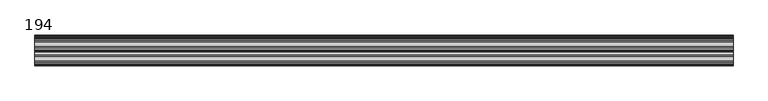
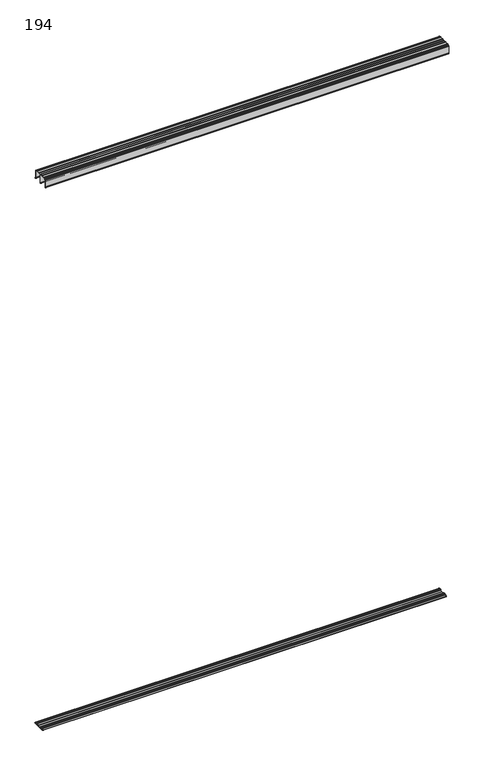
"""IFC4 building model written with IfcOpenShell, lengths in millimetres: proxy geometry, Doors-Other- SOGAL-SOG020022 : 194."""

from ifc_helpers import new_model, si_unit, point, frame, frame_2d, origin, place, context, project, spatial, polyline, circle_curve, trimmed, segment, composite_curve, outline, extrude, source, transform, mapped, element, save
from ifc_brep_helpers import plane_surface, cylinder_surface, revolved_surface, advanced_brep


def proxy_194_778c1687(model_context):
    return source(origin(), model_context, "Body", "SolidModel", [
        advanced_brep(
        [(970.0000092, 43.0231264, 2811.1679716), (970.0000092, 40.9915477, 2809.1363928), (970.0000092, 38.959969, 2811.1679716), (970.0000092, 30.9999973, 2811.1679716), (970.0000092, 26.8729963, 2811.1679716), (970.0000092, 14.8730021, 2811.1679716), (970.0000092, 10.7460011, 2811.1679716), (970.0000092, 6.3988083, 2811.1679716), (970.0000092, 4.9999855, 2809.6679178), (970.0000092, 4.9999855, 2808.1679003), (970.0000092, 4.0000102, 2807.167925), (970.0000092, 2.4999928, 2807.167925), (970.0000092, 1.0000116, 2805.6679439), (970.0000092, 1.0000116, 2771.6679117), (970.0000092, 0.205002, 2770.0499872), (970.0000092, 0.0, 2769.1679418), (970.0000092, 0.0, 2767.4179531), (970.0000092, 2.1113893, 2767.4179531), (970.0000092, 2.1113893, 2768.6679494), (970.0000092, 1.3113893, 2768.6679494), (970.0000092, 1.3113893, 2767.4179531), (970.0000092, 0.5000058, 2767.4179531), (970.0000092, 0.5000058, 2769.5165112), (970.0000092, 1.4999811, 2771.5519336), (970.0000092, 1.4999811, 2805.6679439), (970.0000092, 2.4999928, 2806.6679555), (970.0000092, 4.0000102, 2806.6679555), (970.0000092, 5.4999913, 2808.1679367), (970.0000092, 5.4999913, 2809.6679178), (970.0000092, 6.4448445, 2810.6764227), (970.0000092, 10.7507969, 2810.6764227), (970.0000092, 14.696305, 2810.7001949), (970.0000092, 27.0496934, 2810.7001949), (970.0000092, 30.9952015, 2810.6764227), (970.0000092, 38.959969, 2810.6764227), (970.0000092, 40.4999989, 2809.1363928), (970.0000092, 40.4999989, 2768.6173711), (970.0000092, 39.9876209, 2767.2285634), (970.0000092, 40.9915477, 2764.6739035), (970.0000092, 41.9954744, 2767.2285634), (970.0000092, 41.4830965, 2768.6173711), (970.0000092, 41.4830965, 2809.1363928), (970.0000092, 43.0231264, 2810.6764227), (970.0000092, 50.9878939, 2810.6764227), (970.0000092, 54.933402, 2810.7001949), (970.0000092, 67.2867904, 2810.7001949), (970.0000092, 71.2322985, 2810.6764227), (970.0000092, 75.5382509, 2810.6764227), (970.0000092, 76.4831041, 2809.6679178), (970.0000092, 76.4831041, 2808.1679367), (970.0000092, 77.9830852, 2806.6679555), (970.0000092, 79.4831026, 2806.6679555), (970.0000092, 80.4831143, 2805.6679439), (970.0000092, 80.4831143, 2771.5519336), (970.0000092, 81.4830896, 2769.5165112), (970.0000092, 81.4830896, 2767.4179531), (970.0000092, 80.6717061, 2767.4179531), (970.0000092, 80.6717061, 2768.6679494), (970.0000092, 79.8717061, 2768.6679494), (970.0000092, 79.8717061, 2767.4179531), (970.0000092, 81.9830954, 2767.4179531), (970.0000092, 81.9830954, 2769.1679418), (970.0000092, 81.7780934, 2770.0499872), (970.0000092, 80.9830837, 2771.6679117), (970.0000092, 80.9830837, 2805.6679439), (970.0000092, 79.4831026, 2807.167925), (970.0000092, 77.9830852, 2807.167925), (970.0000092, 76.9831099, 2808.1679003), (970.0000092, 76.9831099, 2809.6679178), (970.0000092, 75.5842871, 2811.1679716), (970.0000092, 71.2370943, 2811.1679716), (970.0000092, 67.1100933, 2811.1679716), (970.0000092, 55.110099, 2811.1679716), (970.0000092, 50.983098, 2811.1679716), (970.0000092, 41.6980443, 2766.8676318), (970.0000092, 40.2681734, 2766.8676318), (970.0000092, 40.9915477, 2768.6162721), (-969.9999908, 43.0231264, 2811.1679716), (-969.9999908, 50.983098, 2811.1679716), (-969.9999908, 55.110099, 2811.1679716), (-969.9999908, 67.1100933, 2811.1679716), (-969.9999908, 71.2370943, 2811.1679716), (-969.9999908, 75.5842871, 2811.1679716), (-969.9999908, 76.9831099, 2809.6679178), (-969.9999908, 76.9831099, 2808.1679003), (-969.9999908, 77.9830852, 2807.167925), (-969.9999908, 79.4831026, 2807.167925), (-969.9999908, 80.9830837, 2805.6679439), (-969.9999908, 80.9830837, 2771.6679117), (-969.9999908, 81.7780934, 2770.0499872), (-969.9999908, 81.9830954, 2769.1679418), (-969.9999908, 81.9830954, 2767.4179531), (-969.9999908, 79.8717061, 2767.4179531), (-969.9999908, 79.8717061, 2768.6679494), (-969.9999908, 80.6717061, 2768.6679494), (-969.9999908, 80.6717061, 2767.4179531), (-969.9999908, 81.4830896, 2767.4179531), (-969.9999908, 81.4830896, 2769.5165112), (-969.9999908, 80.4831143, 2771.5519336), (-969.9999908, 80.4831143, 2805.6679439), (-969.9999908, 79.4831026, 2806.6679555), (-969.9999908, 77.9830852, 2806.6679555), (-969.9999908, 76.4831041, 2808.1679367), (-969.9999908, 76.4831041, 2809.6679178), (-969.9999908, 75.5382509, 2810.6764227), (-969.9999908, 71.2322985, 2810.6764227), (-969.9999908, 67.2867904, 2810.7001949), (-969.9999908, 54.933402, 2810.7001949), (-969.9999908, 50.9878939, 2810.6764227), (-969.9999908, 43.0231264, 2810.6764227), (-969.9999908, 41.4830965, 2809.1363928), (-969.9999908, 41.4830965, 2768.6173711), (-969.9999908, 41.9954744, 2767.2285634), (-969.9999908, 40.9915477, 2764.6739035), (-969.9999908, 39.9876209, 2767.2285634), (-969.9999908, 40.4999989, 2768.6173711), (-969.9999908, 40.4999989, 2809.1363928), (-969.9999908, 38.959969, 2810.6764227), (-969.9999908, 30.9952015, 2810.6764227), (-969.9999908, 27.0496934, 2810.7001949), (-969.9999908, 14.696305, 2810.7001949), (-969.9999908, 10.7507969, 2810.6764227), (-969.9999908, 6.4448445, 2810.6764227), (-969.9999908, 5.4999913, 2809.6679178), (-969.9999908, 5.4999913, 2808.1679367), (-969.9999908, 4.0000102, 2806.6679555), (-969.9999908, 2.4999928, 2806.6679555), (-969.9999908, 1.4999811, 2805.6679439), (-969.9999908, 1.4999811, 2771.5519336), (-969.9999908, 0.5000058, 2769.5165112), (-969.9999908, 0.5000058, 2767.4179531), (-969.9999908, 1.3113893, 2767.4179531), (-969.9999908, 1.3113893, 2768.6679494), (-969.9999908, 2.1113893, 2768.6679494), (-969.9999908, 2.1113893, 2767.4179531), (-969.9999908, 0.0, 2767.4179531), (-969.9999908, 0.0, 2769.1679418), (-969.9999908, 0.205002, 2770.0499872), (-969.9999908, 1.0000116, 2771.6679117), (-969.9999908, 1.0000116, 2805.6679439), (-969.9999908, 2.4999928, 2807.167925), (-969.9999908, 4.0000102, 2807.167925), (-969.9999908, 4.9999855, 2808.1679003), (-969.9999908, 4.9999855, 2809.6679178), (-969.9999908, 6.3988083, 2811.1679716), (-969.9999908, 10.7460011, 2811.1679716), (-969.9999908, 14.8730021, 2811.1679716), (-969.9999908, 26.8729963, 2811.1679716), (-969.9999908, 30.9999973, 2811.1679716), (-969.9999908, 38.959969, 2811.1679716), (-969.9999908, 40.9915477, 2809.1363928), (-969.9999908, 41.6980443, 2766.8676318), (-969.9999908, 40.9915477, 2768.6162721), (-969.9999908, 40.2681734, 2766.8676318)],
        [
            (0, 1, circle_curve(frame((970.0000092, 43.0231264, 2809.1363928), z_axis=(1.0, 0.0, 0.0), x_axis=(0.0, 1.0, 0.0)), 2.0315787)),
            (1, 2, circle_curve(frame((970.0000092, 38.959969, 2809.1363928), z_axis=(1.0, 0.0, 0.0), x_axis=(0.0, 1.0, 0.0)), 2.0315787)),
            (2, 3),
            (3, 4, circle_curve(frame((970.0000092, 28.9364968, 2807.741466), z_axis=(1.0, 0.0, 0.0), x_axis=(0.0, 1.0, 0.0)), 3.9998718)),
            (4, 5),
            (5, 6, circle_curve(frame((970.0000092, 12.8095016, 2807.741466), z_axis=(1.0, 0.0, 0.0), x_axis=(0.0, 1.0, 0.0)), 3.9998718)),
            (6, 7),
            (7, 8, circle_curve(frame((970.0000092, 6.5037023, 2809.6679178), z_axis=(1.0, 0.0, 0.0), x_axis=(0.0, 1.0, 0.0)), 1.5037168)),
            (8, 9),
            (9, 10, circle_curve(frame((970.0000092, 4.0000102, 2808.1679003), z_axis=(-1.0, 0.0, 0.0), x_axis=(0.0, 1.0, 0.0)), 0.9999753)),
            (10, 11),
            (11, 12, circle_curve(frame((970.0000092, 2.4999928, 2805.6679439), z_axis=(1.0, 0.0, 0.0), x_axis=(0.0, 1.0, 0.0)), 1.4999811)),
            (12, 13),
            (13, 14),
            (14, 15, circle_curve(frame((970.0000092, 2.000053, 2769.1679418), z_axis=(1.0, 0.0, 0.0), x_axis=(0.0, 1.0, 0.0)), 2.000053)),
            (15, 16),
            (16, 17, circle_curve(frame((970.0000092, 1.0556947, 2767.8588098), z_axis=(1.0, 0.0, 0.0), x_axis=(0.0, 1.0, 0.0)), 1.144048)),
            (17, 18),
            (18, 19),
            (19, 20),
            (20, 21),
            (21, 22),
            (22, 23),
            (23, 24),
            (24, 25, circle_curve(frame((970.0000092, 2.4999928, 2805.6679439), z_axis=(-1.0, 0.0, 0.0), x_axis=(0.0, 1.0, 0.0)), 1.0000116)),
            (25, 26),
            (26, 27, circle_curve(frame((970.0000092, 4.0000102, 2808.1679367), z_axis=(1.0, 0.0, 0.0), x_axis=(0.0, 1.0, 0.0)), 1.4999811)),
            (27, 28),
            (28, 29, circle_curve(frame((970.0000092, 6.5106403, 2809.6679178), z_axis=(-1.0, 0.0, 0.0), x_axis=(0.0, 1.0, 0.0)), 1.010649)),
            (29, 30),
            (30, 31, circle_curve(frame((970.0000092, 12.7427575, 2807.5005547), z_axis=(-1.0, 0.0, 0.0), x_axis=(0.0, 1.0, 0.0)), 3.7488725)),
            (31, 32),
            (32, 33, circle_curve(frame((970.0000092, 29.0032408, 2807.5005547), z_axis=(-1.0, 0.0, 0.0), x_axis=(0.0, 1.0, 0.0)), 3.7488725)),
            (33, 34),
            (34, 35, circle_curve(frame((970.0000092, 38.959969, 2809.1363928), z_axis=(-1.0, 0.0, 0.0), x_axis=(0.0, 1.0, 0.0)), 1.5400299)),
            (35, 36),
            (36, 37, circle_curve(frame((970.0000092, 38.9121255, 2768.4142705), z_axis=(-1.0, 0.0, 0.0), x_axis=(0.0, 1.0, 0.0)), 1.6008097)),
            (37, 38, circle_curve(frame((970.0000092, 40.97367, 2766.1414688), z_axis=(1.0, 0.0, 0.0), x_axis=(0.0, 1.0, 0.0)), 1.4676742)),
            (38, 39, circle_curve(frame((970.0000092, 41.0094254, 2766.1414688), z_axis=(1.0, 0.0, 0.0), x_axis=(0.0, 1.0, 0.0)), 1.4676742)),
            (39, 40, circle_curve(frame((970.0000092, 43.0709699, 2768.4142705), z_axis=(-1.0, 0.0, 0.0), x_axis=(0.0, 1.0, 0.0)), 1.6008097)),
            (40, 41),
            (41, 42, circle_curve(frame((970.0000092, 43.0231264, 2809.1363928), z_axis=(-1.0, 0.0, 0.0), x_axis=(0.0, 1.0, 0.0)), 1.5400299)),
            (42, 43),
            (43, 44, circle_curve(frame((970.0000092, 52.9798545, 2807.5005547), z_axis=(-1.0, 0.0, 0.0), x_axis=(0.0, 1.0, 0.0)), 3.7488725)),
            (44, 45),
            (45, 46, circle_curve(frame((970.0000092, 69.2403378, 2807.5005547), z_axis=(-1.0, 0.0, 0.0), x_axis=(0.0, 1.0, 0.0)), 3.7488725)),
            (46, 47),
            (47, 48, circle_curve(frame((970.0000092, 75.4724551, 2809.6679178), z_axis=(-1.0, 0.0, 0.0), x_axis=(0.0, 1.0, 0.0)), 1.010649)),
            (48, 49),
            (49, 50, circle_curve(frame((970.0000092, 77.9830852, 2808.1679367), z_axis=(1.0, 0.0, 0.0), x_axis=(0.0, 1.0, 0.0)), 1.4999811)),
            (50, 51),
            (51, 52, circle_curve(frame((970.0000092, 79.4831026, 2805.6679439), z_axis=(-1.0, 0.0, 0.0), x_axis=(0.0, 1.0, 0.0)), 1.0000116)),
            (52, 53),
            (53, 54),
            (54, 55),
            (55, 56),
            (56, 57),
            (57, 58),
            (58, 59),
            (59, 60, circle_curve(frame((970.0000092, 80.9274007, 2767.8588098), z_axis=(1.0, 0.0, 0.0), x_axis=(0.0, 1.0, 0.0)), 1.144048)),
            (60, 61),
            (61, 62, circle_curve(frame((970.0000092, 79.9830424, 2769.1679418), z_axis=(1.0, 0.0, 0.0), x_axis=(0.0, 1.0, 0.0)), 2.000053)),
            (62, 63),
            (63, 64),
            (64, 65, circle_curve(frame((970.0000092, 79.4831026, 2805.6679439), z_axis=(1.0, 0.0, 0.0), x_axis=(0.0, 1.0, 0.0)), 1.4999811)),
            (65, 66),
            (66, 67, circle_curve(frame((970.0000092, 77.9830852, 2808.1679003), z_axis=(-1.0, 0.0, 0.0), x_axis=(0.0, 1.0, 0.0)), 0.9999753)),
            (67, 68),
            (68, 69, circle_curve(frame((970.0000092, 75.4793931, 2809.6679178), z_axis=(1.0, 0.0, 0.0), x_axis=(0.0, 1.0, 0.0)), 1.5037168)),
            (69, 70),
            (70, 71, circle_curve(frame((970.0000092, 69.1735938, 2807.741466), z_axis=(1.0, 0.0, 0.0), x_axis=(0.0, 1.0, 0.0)), 3.9998718)),
            (71, 72),
            (72, 73, circle_curve(frame((970.0000092, 53.0465985, 2807.741466), z_axis=(1.0, 0.0, 0.0), x_axis=(0.0, 1.0, 0.0)), 3.9998718)),
            (73, 0),
            (74, 75, circle_curve(frame((970.0000092, 40.9831089, 2766.1799102), z_axis=(-1.0, 0.0, 0.0), x_axis=(0.0, 1.0, 0.0)), 0.9920149)),
            (75, 76, circle_curve(frame((970.0000092, 38.4005422, 2768.6641721), z_axis=(1.0, 0.0, 0.0), x_axis=(0.0, 1.0, 0.0)), 2.5914482)),
            (76, 74, circle_curve(frame((970.0000092, 43.3376029, 2768.5470982), z_axis=(1.0, 0.0, 0.0), x_axis=(0.0, 1.0, 0.0)), 2.3470748)),
            (77, 78),
            (78, 79, circle_curve(frame((-969.9999908, 53.0465985, 2807.741466), z_axis=(-1.0, 0.0, 0.0), x_axis=(0.0, 1.0, 0.0)), 3.9998718)),
            (79, 80),
            (80, 81, circle_curve(frame((-969.9999908, 69.1735938, 2807.741466), z_axis=(-1.0, 0.0, 0.0), x_axis=(0.0, 1.0, 0.0)), 3.9998718)),
            (81, 82),
            (82, 83, circle_curve(frame((-969.9999908, 75.4793931, 2809.6679178), z_axis=(-1.0, 0.0, 0.0), x_axis=(0.0, 1.0, 0.0)), 1.5037168)),
            (83, 84),
            (84, 85, circle_curve(frame((-969.9999908, 77.9830852, 2808.1679003), z_axis=(1.0, 0.0, 0.0), x_axis=(0.0, 1.0, 0.0)), 0.9999753)),
            (85, 86),
            (86, 87, circle_curve(frame((-969.9999908, 79.4831026, 2805.6679439), z_axis=(-1.0, 0.0, 0.0), x_axis=(0.0, 1.0, 0.0)), 1.4999811)),
            (87, 88),
            (88, 89),
            (89, 90, circle_curve(frame((-969.9999908, 79.9830424, 2769.1679418), z_axis=(-1.0, 0.0, 0.0), x_axis=(0.0, 1.0, 0.0)), 2.000053)),
            (90, 91),
            (91, 92, circle_curve(frame((-969.9999908, 80.9274007, 2767.8588098), z_axis=(-1.0, 0.0, 0.0), x_axis=(0.0, 1.0, 0.0)), 1.144048)),
            (92, 93),
            (93, 94),
            (94, 95),
            (95, 96),
            (96, 97),
            (97, 98),
            (98, 99),
            (99, 100, circle_curve(frame((-969.9999908, 79.4831026, 2805.6679439), z_axis=(1.0, 0.0, 0.0), x_axis=(0.0, 1.0, 0.0)), 1.0000116)),
            (100, 101),
            (101, 102, circle_curve(frame((-969.9999908, 77.9830852, 2808.1679367), z_axis=(-1.0, 0.0, 0.0), x_axis=(0.0, 1.0, 0.0)), 1.4999811)),
            (102, 103),
            (103, 104, circle_curve(frame((-969.9999908, 75.4724551, 2809.6679178), z_axis=(1.0, 0.0, 0.0), x_axis=(0.0, 1.0, 0.0)), 1.010649)),
            (104, 105),
            (105, 106, circle_curve(frame((-969.9999908, 69.2403378, 2807.5005547), z_axis=(1.0, 0.0, 0.0), x_axis=(0.0, 1.0, 0.0)), 3.7488725)),
            (106, 107),
            (107, 108, circle_curve(frame((-969.9999908, 52.9798545, 2807.5005547), z_axis=(1.0, 0.0, 0.0), x_axis=(0.0, 1.0, 0.0)), 3.7488725)),
            (108, 109),
            (109, 110, circle_curve(frame((-969.9999908, 43.0231264, 2809.1363928), z_axis=(1.0, 0.0, 0.0), x_axis=(0.0, 1.0, 0.0)), 1.5400299)),
            (110, 111),
            (111, 112, circle_curve(frame((-969.9999908, 43.0709699, 2768.4142705), z_axis=(1.0, 0.0, 0.0), x_axis=(0.0, 1.0, 0.0)), 1.6008097)),
            (112, 113, circle_curve(frame((-969.9999908, 41.0094254, 2766.1414688), z_axis=(-1.0, 0.0, 0.0), x_axis=(0.0, 1.0, 0.0)), 1.4676742)),
            (113, 114, circle_curve(frame((-969.9999908, 40.97367, 2766.1414688), z_axis=(-1.0, 0.0, 0.0), x_axis=(0.0, 1.0, 0.0)), 1.4676742)),
            (114, 115, circle_curve(frame((-969.9999908, 38.9121255, 2768.4142705), z_axis=(1.0, 0.0, 0.0), x_axis=(0.0, 1.0, 0.0)), 1.6008097)),
            (115, 116),
            (116, 117, circle_curve(frame((-969.9999908, 38.959969, 2809.1363928), z_axis=(1.0, 0.0, 0.0), x_axis=(0.0, 1.0, 0.0)), 1.5400299)),
            (117, 118),
            (118, 119, circle_curve(frame((-969.9999908, 29.0032408, 2807.5005547), z_axis=(1.0, 0.0, 0.0), x_axis=(0.0, 1.0, 0.0)), 3.7488725)),
            (119, 120),
            (120, 121, circle_curve(frame((-969.9999908, 12.7427575, 2807.5005547), z_axis=(1.0, 0.0, 0.0), x_axis=(0.0, 1.0, 0.0)), 3.7488725)),
            (121, 122),
            (122, 123, circle_curve(frame((-969.9999908, 6.5106403, 2809.6679178), z_axis=(1.0, 0.0, 0.0), x_axis=(0.0, 1.0, 0.0)), 1.010649)),
            (123, 124),
            (124, 125, circle_curve(frame((-969.9999908, 4.0000102, 2808.1679367), z_axis=(-1.0, 0.0, 0.0), x_axis=(0.0, 1.0, 0.0)), 1.4999811)),
            (125, 126),
            (126, 127, circle_curve(frame((-969.9999908, 2.4999928, 2805.6679439), z_axis=(1.0, 0.0, 0.0), x_axis=(0.0, 1.0, 0.0)), 1.0000116)),
            (127, 128),
            (128, 129),
            (129, 130),
            (130, 131),
            (131, 132),
            (132, 133),
            (133, 134),
            (134, 135, circle_curve(frame((-969.9999908, 1.0556947, 2767.8588098), z_axis=(-1.0, 0.0, 0.0), x_axis=(0.0, 1.0, 0.0)), 1.144048)),
            (135, 136),
            (136, 137, circle_curve(frame((-969.9999908, 2.000053, 2769.1679418), z_axis=(-1.0, 0.0, 0.0), x_axis=(0.0, 1.0, 0.0)), 2.000053)),
            (137, 138),
            (138, 139),
            (139, 140, circle_curve(frame((-969.9999908, 2.4999928, 2805.6679439), z_axis=(-1.0, 0.0, 0.0), x_axis=(0.0, 1.0, 0.0)), 1.4999811)),
            (140, 141),
            (141, 142, circle_curve(frame((-969.9999908, 4.0000102, 2808.1679003), z_axis=(1.0, 0.0, 0.0), x_axis=(0.0, 1.0, 0.0)), 0.9999753)),
            (142, 143),
            (143, 144, circle_curve(frame((-969.9999908, 6.5037023, 2809.6679178), z_axis=(-1.0, 0.0, 0.0), x_axis=(0.0, 1.0, 0.0)), 1.5037168)),
            (144, 145),
            (145, 146, circle_curve(frame((-969.9999908, 12.8095016, 2807.741466), z_axis=(-1.0, 0.0, 0.0), x_axis=(0.0, 1.0, 0.0)), 3.9998718)),
            (146, 147),
            (147, 148, circle_curve(frame((-969.9999908, 28.9364968, 2807.741466), z_axis=(-1.0, 0.0, 0.0), x_axis=(0.0, 1.0, 0.0)), 3.9998718)),
            (148, 149),
            (149, 150, circle_curve(frame((-969.9999908, 38.959969, 2809.1363928), z_axis=(-1.0, 0.0, 0.0), x_axis=(0.0, 1.0, 0.0)), 2.0315787)),
            (150, 77, circle_curve(frame((-969.9999908, 43.0231264, 2809.1363928), z_axis=(-1.0, 0.0, 0.0), x_axis=(0.0, 1.0, 0.0)), 2.0315787)),
            (151, 152, circle_curve(frame((-969.9999908, 43.3376029, 2768.5470982), z_axis=(-1.0, 0.0, 0.0), x_axis=(0.0, 1.0, 0.0)), 2.3470748)),
            (152, 153, circle_curve(frame((-969.9999908, 38.4005422, 2768.6641721), z_axis=(-1.0, 0.0, 0.0), x_axis=(0.0, 1.0, 0.0)), 2.5914482)),
            (153, 151, circle_curve(frame((-969.9999908, 40.9831089, 2766.1799102), z_axis=(1.0, 0.0, 0.0), x_axis=(0.0, 1.0, 0.0)), 0.9920149)),
            (0, 77),
            (150, 1),
            (149, 2),
            (148, 3),
            (147, 4),
            (146, 5),
            (145, 6),
            (144, 7),
            (143, 8),
            (142, 9),
            (141, 10),
            (140, 11),
            (139, 12),
            (138, 13),
            (137, 14),
            (136, 15),
            (135, 16),
            (134, 17),
            (133, 18),
            (132, 19),
            (131, 20),
            (130, 21),
            (129, 22),
            (128, 23),
            (127, 24),
            (126, 25),
            (125, 26),
            (124, 27),
            (123, 28),
            (122, 29),
            (121, 30),
            (120, 31),
            (119, 32),
            (118, 33),
            (117, 34),
            (116, 35),
            (115, 36),
            (114, 37),
            (113, 38),
            (112, 39),
            (111, 40),
            (110, 41),
            (109, 42),
            (108, 43),
            (107, 44),
            (106, 45),
            (105, 46),
            (104, 47),
            (103, 48),
            (102, 49),
            (101, 50),
            (100, 51),
            (99, 52),
            (98, 53),
            (97, 54),
            (96, 55),
            (95, 56),
            (94, 57),
            (93, 58),
            (92, 59),
            (91, 60),
            (90, 61),
            (89, 62),
            (88, 63),
            (87, 64),
            (86, 65),
            (85, 66),
            (84, 67),
            (83, 68),
            (82, 69),
            (81, 70),
            (80, 71),
            (79, 72),
            (78, 73),
            (74, 151),
            (153, 75),
            (152, 76),
        ],
        [
            plane_surface(frame((970.0000092, 45.0547052, 2809.1363928), z_axis=(1.0, 0.0, 0.0), x_axis=(0.0, 0.0, 1.0))),
            plane_surface(frame((-969.9999908, 45.0547052, 2809.1363928), z_axis=(-1.0, 0.0, 0.0), x_axis=(0.0, 0.0, -1.0))),
            cylinder_surface(frame((-969.9999908, 43.0231264, 2809.1363928), z_axis=(1.0, 0.0, 0.0), x_axis=(0.0, 1.0, 0.0)), 2.0315787),
            cylinder_surface(frame((-969.9999908, 38.959969, 2809.1363928), z_axis=(1.0, 0.0, 0.0), x_axis=(0.0, 1.0, 0.0)), 2.0315787),
            plane_surface(frame((970.0000092, 38.959969, 2811.1679716), z_axis=(0.0, 0.0, 1.0), x_axis=(-1.0, 0.0, 0.0))),
            cylinder_surface(frame((-969.9999908, 28.9364968, 2807.741466), z_axis=(1.0, 0.0, 0.0), x_axis=(0.0, 1.0, 0.0)), 3.9998718),
            plane_surface(frame((970.0000092, 26.8729963, 2811.1679716), z_axis=(0.0, 0.0, 1.0), x_axis=(-1.0, 0.0, 0.0))),
            cylinder_surface(frame((-969.9999908, 12.8095016, 2807.741466), z_axis=(1.0, 0.0, 0.0), x_axis=(0.0, 1.0, 0.0)), 3.9998718),
            plane_surface(frame((970.0000092, 10.7460011, 2811.1679716), z_axis=(0.0, 0.0, 1.0), x_axis=(-1.0, 0.0, 0.0))),
            cylinder_surface(frame((-969.9999908, 6.5037023, 2809.6679178), z_axis=(1.0, 0.0, 0.0), x_axis=(0.0, 1.0, 0.0)), 1.5037168),
            plane_surface(frame((970.0000092, 4.9999855, 2809.6679178), z_axis=(0.0, -1.0, 0.0), x_axis=(-1.0, 0.0, 0.0))),
            revolved_surface(polyline([(-969.9999908, 4.9999855, 2808.1679003), (970.0000092, 4.9999855, 2808.1679003)]), (-969.9999908, 4.0000102, 2808.1679003), (-1.0, 0.0, 0.0)),
            plane_surface(frame((970.0000092, 4.0000102, 2807.167925), z_axis=(0.0, 0.0, 1.0), x_axis=(-1.0, 0.0, 0.0))),
            cylinder_surface(frame((-969.9999908, 2.4999928, 2805.6679439), z_axis=(1.0, 0.0, 0.0), x_axis=(0.0, 1.0, 0.0)), 1.4999811),
            plane_surface(frame((970.0000092, 1.0000116, 2805.6679439), z_axis=(0.0, -1.0, 0.0), x_axis=(-1.0, 0.0, 0.0))),
            plane_surface(frame((970.0000092, 1.0000116, 2771.6679117), z_axis=(0.0, -0.8975017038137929, 0.44101098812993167), x_axis=(-1.0, 0.0, 0.0))),
            cylinder_surface(frame((-969.9999908, 2.000053, 2769.1679418), z_axis=(1.0, 0.0, 0.0), x_axis=(0.0, 1.0, 0.0)), 2.000053),
            plane_surface(frame((970.0000092, 0.0, 2769.1679418), z_axis=(0.0, -1.0, 0.0), x_axis=(-1.0, 0.0, 0.0))),
            cylinder_surface(frame((-969.9999908, 1.0556947, 2767.8588098), z_axis=(1.0, 0.0, 0.0), x_axis=(0.0, 1.0, 0.0)), 1.144048),
            plane_surface(frame((970.0000092, 2.1113893, 2767.4179531), z_axis=(0.0, 1.0, 0.0), x_axis=(-1.0, 0.0, 0.0))),
            plane_surface(frame((970.0000092, 2.1113893, 2768.6679494), z_axis=(0.0, 0.0, 1.0), x_axis=(-1.0, 0.0, 0.0))),
            plane_surface(frame((970.0000092, 1.3113893, 2768.6679494), z_axis=(0.0, -1.0, 0.0), x_axis=(-1.0, 0.0, 0.0))),
            plane_surface(frame((970.0000092, 1.3113893, 2767.4179531), z_axis=(0.0, 0.0, 1.0), x_axis=(-1.0, 0.0, 0.0))),
            plane_surface(frame((970.0000092, 0.5000058, 2767.4179531), z_axis=(0.0, 1.0, 0.0), x_axis=(-1.0, 0.0, 0.0))),
            plane_surface(frame((970.0000092, 0.5000058, 2769.5165112), z_axis=(0.0, 0.8975336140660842, -0.4409460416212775), x_axis=(-1.0, 0.0, 0.0))),
            plane_surface(frame((970.0000092, 1.4999811, 2771.5519336), z_axis=(0.0, 1.0, -1.9235379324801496e-12), x_axis=(-1.0, 0.0, 0.0))),
            revolved_surface(polyline([(-969.9999908, 3.5000044, 2805.6679439), (970.0000092, 3.5000044, 2805.6679439)]), (-969.9999908, 2.4999928, 2805.6679439), (-1.0, 0.0, 0.0)),
            plane_surface(frame((970.0000092, 2.4999928, 2806.6679555), z_axis=(0.0, 0.0, -1.0), x_axis=(-1.0, 0.0, 0.0))),
            cylinder_surface(frame((-969.9999908, 4.0000102, 2808.1679367), z_axis=(1.0, 0.0, 0.0), x_axis=(0.0, 1.0, 0.0)), 1.4999811),
            plane_surface(frame((970.0000092, 5.4999913, 2808.1679367), z_axis=(0.0, 1.0, 0.0), x_axis=(-1.0, 0.0, 0.0))),
            revolved_surface(polyline([(-969.9999908, 7.5212893, 2809.6679178), (970.0000092, 7.5212893, 2809.6679178)]), (-969.9999908, 6.5106403, 2809.6679178), (-1.0, 0.0, 0.0)),
            plane_surface(frame((970.0000092, 6.4448445, 2810.6764227), z_axis=(0.0, 0.0, -1.0), x_axis=(-1.0, 0.0, 0.0))),
            revolved_surface(polyline([(-969.9999908, 16.49163, 2807.5005547), (970.0000092, 16.49163, 2807.5005547)]), (-969.9999908, 12.7427575, 2807.5005547), (-1.0, 0.0, 0.0)),
            plane_surface(frame((970.0000092, 14.696305, 2810.7001949), z_axis=(0.0, 0.0, -1.0), x_axis=(-1.0, 0.0, 0.0))),
            revolved_surface(polyline([(-969.9999908, 32.7521133, 2807.5005547), (970.0000092, 32.7521133, 2807.5005547)]), (-969.9999908, 29.0032408, 2807.5005547), (-1.0, 0.0, 0.0)),
            plane_surface(frame((970.0000092, 30.9952015, 2810.6764227), z_axis=(0.0, 0.0, -1.0), x_axis=(-1.0, 0.0, 0.0))),
            revolved_surface(polyline([(-969.9999908, 40.4999989, 2809.1363928), (970.0000092, 40.4999989, 2809.1363928)]), (-969.9999908, 38.959969, 2809.1363928), (-1.0, 0.0, 0.0)),
            plane_surface(frame((970.0000092, 40.4999989, 2809.1363928), z_axis=(0.0, -1.0, 0.0), x_axis=(-1.0, 0.0, 0.0))),
            revolved_surface(polyline([(-969.9999908, 40.5129352, 2768.4142705), (970.0000092, 40.5129352, 2768.4142705)]), (-969.9999908, 38.9121255, 2768.4142705), (-1.0, 0.0, 0.0)),
            cylinder_surface(frame((-969.9999908, 40.97367, 2766.1414688), z_axis=(1.0, 0.0, 0.0), x_axis=(0.0, 1.0, 0.0)), 1.4676742),
            cylinder_surface(frame((-969.9999908, 41.0094254, 2766.1414688), z_axis=(1.0, 0.0, 0.0), x_axis=(0.0, 1.0, 0.0)), 1.4676742),
            revolved_surface(polyline([(-969.9999908, 44.6717796, 2768.4142705), (970.0000092, 44.6717796, 2768.4142705)]), (-969.9999908, 43.0709699, 2768.4142705), (-1.0, 0.0, 0.0)),
            plane_surface(frame((970.0000092, 41.4830965, 2768.6173711), z_axis=(0.0, 1.0, 0.0), x_axis=(-1.0, 0.0, 0.0))),
            revolved_surface(polyline([(-969.9999908, 44.5631563, 2809.1363928), (970.0000092, 44.5631563, 2809.1363928)]), (-969.9999908, 43.0231264, 2809.1363928), (-1.0, 0.0, 0.0)),
            plane_surface(frame((970.0000092, 43.0231264, 2810.6764227), z_axis=(0.0, 0.0, -1.0), x_axis=(-1.0, 0.0, 0.0))),
            revolved_surface(polyline([(-969.9999908, 56.728727, 2807.5005547), (970.0000092, 56.728727, 2807.5005547)]), (-969.9999908, 52.9798545, 2807.5005547), (-1.0, 0.0, 0.0)),
            plane_surface(frame((970.0000092, 54.933402, 2810.7001949), z_axis=(0.0, 0.0, -1.0), x_axis=(-1.0, 0.0, 0.0))),
            revolved_surface(polyline([(-969.9999908, 72.98921030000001, 2807.5005547), (970.0000092, 72.98921030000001, 2807.5005547)]), (-969.9999908, 69.2403378, 2807.5005547), (-1.0, 0.0, 0.0)),
            plane_surface(frame((970.0000092, 71.2322985, 2810.6764227), z_axis=(0.0, 0.0, -1.0), x_axis=(-1.0, 0.0, 0.0))),
            revolved_surface(polyline([(-969.9999908, 76.4831041, 2809.6679178), (970.0000092, 76.4831041, 2809.6679178)]), (-969.9999908, 75.4724551, 2809.6679178), (-1.0, 0.0, 0.0)),
            plane_surface(frame((970.0000092, 76.4831041, 2809.6679178), z_axis=(0.0, -1.0, 0.0), x_axis=(-1.0, 0.0, 0.0))),
            cylinder_surface(frame((-969.9999908, 77.9830852, 2808.1679367), z_axis=(1.0, 0.0, 0.0), x_axis=(0.0, 1.0, 0.0)), 1.4999811),
            plane_surface(frame((970.0000092, 77.9830852, 2806.6679555), z_axis=(0.0, 0.0, -1.0), x_axis=(-1.0, 0.0, 0.0))),
            revolved_surface(polyline([(-969.9999908, 80.48311419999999, 2805.6679439), (970.0000092, 80.48311419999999, 2805.6679439)]), (-969.9999908, 79.4831026, 2805.6679439), (-1.0, 0.0, 0.0)),
            plane_surface(frame((970.0000092, 80.4831143, 2805.6679439), z_axis=(0.0, -1.0, 0.0), x_axis=(-1.0, 0.0, 0.0))),
            plane_surface(frame((970.0000092, 80.4831143, 2771.5519336), z_axis=(0.0, -0.8975336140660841, -0.4409460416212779), x_axis=(-1.0, 0.0, 0.0))),
            plane_surface(frame((970.0000092, 81.4830896, 2769.5165112), z_axis=(0.0, -1.0, 0.0), x_axis=(-1.0, 0.0, 0.0))),
            plane_surface(frame((970.0000092, 81.4830896, 2767.4179531), z_axis=(0.0, 0.0, 1.0), x_axis=(-1.0, 0.0, 0.0))),
            plane_surface(frame((970.0000092, 80.6717061, 2767.4179531), z_axis=(0.0, 1.0, 0.0), x_axis=(-1.0, 0.0, 0.0))),
            plane_surface(frame((970.0000092, 80.6717061, 2768.6679494), z_axis=(0.0, 0.0, 1.0), x_axis=(-1.0, 0.0, 0.0))),
            plane_surface(frame((970.0000092, 79.8717061, 2768.6679494), z_axis=(0.0, -1.0, 0.0), x_axis=(-1.0, 0.0, 0.0))),
            cylinder_surface(frame((-969.9999908, 80.9274007, 2767.8588098), z_axis=(1.0, 0.0, 0.0), x_axis=(0.0, 1.0, 0.0)), 1.144048),
            plane_surface(frame((970.0000092, 81.9830954, 2767.4179531), z_axis=(0.0, 1.0, -1.1258989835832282e-10), x_axis=(-1.0, 0.0, 0.0))),
            cylinder_surface(frame((-969.9999908, 79.9830424, 2769.1679418), z_axis=(1.0, 0.0, 0.0), x_axis=(0.0, 1.0, 0.0)), 2.000053),
            plane_surface(frame((970.0000092, 81.7780934, 2770.0499872), z_axis=(0.0, 0.8975017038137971, 0.4410109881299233), x_axis=(-1.0, 0.0, 0.0))),
            plane_surface(frame((970.0000092, 80.9830837, 2771.6679117), z_axis=(0.0, 1.0, 1.929104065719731e-12), x_axis=(-1.0, 0.0, 0.0))),
            cylinder_surface(frame((-969.9999908, 79.4831026, 2805.6679439), z_axis=(1.0, 0.0, 0.0), x_axis=(0.0, 1.0, 0.0)), 1.4999811),
            plane_surface(frame((970.0000092, 79.4831026, 2807.167925), z_axis=(0.0, 0.0, 1.0), x_axis=(-1.0, 0.0, 0.0))),
            revolved_surface(polyline([(-969.9999908, 78.98306050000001, 2808.1679003), (970.0000092, 78.98306050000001, 2808.1679003)]), (-969.9999908, 77.9830852, 2808.1679003), (-1.0, 0.0, 0.0)),
            plane_surface(frame((970.0000092, 76.9831099, 2808.1679003), z_axis=(0.0, 1.0, 0.0), x_axis=(-1.0, 0.0, 0.0))),
            cylinder_surface(frame((-969.9999908, 75.4793931, 2809.6679178), z_axis=(1.0, 0.0, 0.0), x_axis=(0.0, 1.0, 0.0)), 1.5037168),
            plane_surface(frame((970.0000092, 75.5842871, 2811.1679716), z_axis=(0.0, 0.0, 1.0), x_axis=(-1.0, 0.0, 0.0))),
            cylinder_surface(frame((-969.9999908, 69.1735938, 2807.741466), z_axis=(1.0, 0.0, 0.0), x_axis=(0.0, 1.0, 0.0)), 3.9998718),
            plane_surface(frame((970.0000092, 67.1100933, 2811.1679716), z_axis=(0.0, 0.0, 1.0), x_axis=(-1.0, 0.0, 0.0))),
            cylinder_surface(frame((-969.9999908, 53.0465985, 2807.741466), z_axis=(1.0, 0.0, 0.0), x_axis=(0.0, 1.0, 0.0)), 3.9998718),
            plane_surface(frame((970.0000092, 50.983098, 2811.1679716), z_axis=(0.0, 0.0, 1.0), x_axis=(-1.0, 0.0, 0.0))),
            revolved_surface(polyline([(-969.9999908, 41.9751238, 2766.1799102), (970.0000092, 41.9751238, 2766.1799102)]), (9.2e-06, 40.9831089, 2766.1799102), (-1.0, 0.0, 0.0)),
            cylinder_surface(frame((9.2e-06, 38.4005422, 2768.6641721), z_axis=(1.0, 0.0, 0.0), x_axis=(0.0, 1.0, 0.0)), 2.5914482),
            cylinder_surface(frame((9.2e-06, 43.3376029, 2768.5470982), z_axis=(1.0, 0.0, 0.0), x_axis=(0.0, 1.0, 0.0)), 2.3470748),
        ],
        [
            (0, [[1, 2, 3, 4, 5, 6, 7, 8, 9, 10, 11, 12, 13, 14, 15, 16, 17, 18, 19, 20, 21, 22, 23, 24, 25, 26, 27, 28, 29, 30, 31, 32, 33, 34, 35, 36, 37, 38, 39, 40, 41, 42, 43, 44, 45, 46, 47, 48, 49, 50, 51, 52, 53, 54, 55, 56, 57, 58, 59, 60, 61, 62, 63, 64, 65, 66, 67, 68, 69, 70, 71, 72, 73, 74], [75, 76, 77]]),
            (1, [[78, 79, 80, 81, 82, 83, 84, 85, 86, 87, 88, 89, 90, 91, 92, 93, 94, 95, 96, 97, 98, 99, 100, 101, 102, 103, 104, 105, 106, 107, 108, 109, 110, 111, 112, 113, 114, 115, 116, 117, 118, 119, 120, 121, 122, 123, 124, 125, 126, 127, 128, 129, 130, 131, 132, 133, 134, 135, 136, 137, 138, 139, 140, 141, 142, 143, 144, 145, 146, 147, 148, 149, 150, 151], [152, 153, 154]]),
            (2, [[-1, 155, -151, 156]]),
            (3, [[-2, -156, -150, 157]]),
            (4, [[-3, -157, -149, 158]]),
            (5, [[-4, -158, -148, 159]]),
            (6, [[-5, -159, -147, 160]]),
            (7, [[-6, -160, -146, 161]]),
            (8, [[-7, -161, -145, 162]]),
            (9, [[-8, -162, -144, 163]]),
            (10, [[-9, -163, -143, 164]]),
            (11, [[-10, -164, -142, 165]]),
            (12, [[-11, -165, -141, 166]]),
            (13, [[-12, -166, -140, 167]]),
            (14, [[-13, -167, -139, 168]]),
            (15, [[-14, -168, -138, 169]]),
            (16, [[-15, -169, -137, 170]]),
            (17, [[-16, -170, -136, 171]]),
            (18, [[-17, -171, -135, 172]]),
            (19, [[-18, -172, -134, 173]]),
            (20, [[-19, -173, -133, 174]]),
            (21, [[-20, -174, -132, 175]]),
            (22, [[-21, -175, -131, 176]]),
            (23, [[-22, -176, -130, 177]]),
            (24, [[-23, -177, -129, 178]]),
            (25, [[-24, -178, -128, 179]]),
            (26, [[-25, -179, -127, 180]]),
            (27, [[-26, -180, -126, 181]]),
            (28, [[-27, -181, -125, 182]]),
            (29, [[-28, -182, -124, 183]]),
            (30, [[-29, -183, -123, 184]]),
            (31, [[-30, -184, -122, 185]]),
            (32, [[-31, -185, -121, 186]]),
            (33, [[-32, -186, -120, 187]]),
            (34, [[-33, -187, -119, 188]]),
            (35, [[-34, -188, -118, 189]]),
            (36, [[-35, -189, -117, 190]]),
            (37, [[-36, -190, -116, 191]]),
            (38, [[-37, -191, -115, 192]]),
            (39, [[-38, -192, -114, 193]]),
            (40, [[-39, -193, -113, 194]]),
            (41, [[-40, -194, -112, 195]]),
            (42, [[-41, -195, -111, 196]]),
            (43, [[-42, -196, -110, 197]]),
            (44, [[-43, -197, -109, 198]]),
            (45, [[-44, -198, -108, 199]]),
            (46, [[-45, -199, -107, 200]]),
            (47, [[-46, -200, -106, 201]]),
            (48, [[-47, -201, -105, 202]]),
            (49, [[-48, -202, -104, 203]]),
            (50, [[-49, -203, -103, 204]]),
            (51, [[-50, -204, -102, 205]]),
            (52, [[-51, -205, -101, 206]]),
            (53, [[-52, -206, -100, 207]]),
            (54, [[-53, -207, -99, 208]]),
            (55, [[-54, -208, -98, 209]]),
            (56, [[-55, -209, -97, 210]]),
            (57, [[-56, -210, -96, 211]]),
            (58, [[-57, -211, -95, 212]]),
            (59, [[-58, -212, -94, 213]]),
            (60, [[-59, -213, -93, 214]]),
            (61, [[-60, -214, -92, 215]]),
            (62, [[-61, -215, -91, 216]]),
            (63, [[-62, -216, -90, 217]]),
            (64, [[-63, -217, -89, 218]]),
            (65, [[-64, -218, -88, 219]]),
            (66, [[-65, -219, -87, 220]]),
            (67, [[-66, -220, -86, 221]]),
            (68, [[-67, -221, -85, 222]]),
            (69, [[-68, -222, -84, 223]]),
            (70, [[-69, -223, -83, 224]]),
            (71, [[-70, -224, -82, 225]]),
            (72, [[-71, -225, -81, 226]]),
            (73, [[-72, -226, -80, 227]]),
            (74, [[-73, -227, -79, 228]]),
            (75, [[-74, -228, -78, -155]]),
            (76, [[-75, 229, -154, 230]]),
            (77, [[-76, -230, -153, 231]]),
            (78, [[-77, -231, -152, -229]]),
        ],
    ),
        extrude(outline(composite_curve([segment(polyline([(79.0831296, 0.5001148), (79.0831296, 2.8469193)]), True, "CONTINUOUS"), segment(trimmed(circle_curve(frame_2d((77.5831979, 2.8469193)), 1.4999316), [point((79.0831296, 2.8469193))], [point((78.6438393, 3.9075015))], True, "CARTESIAN"), True, "CONTINUOUS"), segment(polyline([(78.6438393, 3.9075015), (76.6878483, 5.8636015)]), True, "CONTINUOUS"), segment(trimmed(circle_curve(frame_2d((77.3243109, 6.5000286)), 0.9000689), [point((76.6878483, 5.8636015))], [point((76.8742528, 7.2794975))], False, "CARTESIAN"), True, "CONTINUOUS"), segment(polyline([(76.8742528, 7.2794975), (77.7170066, 7.7660957)]), True, "CONTINUOUS"), segment(trimmed(circle_curve(frame_2d((78.2170476, 6.90006)), 1.0000294), [point((77.7170066, 7.7660957))], [point((78.5591157, 7.8397665))], False, "CARTESIAN"), True, "CONTINUOUS"), segment(polyline([(78.5591157, 7.8397665), (81.0645671, 6.927742)]), True, "CONTINUOUS"), segment(trimmed(circle_curve(frame_2d((80.3802016, 5.0476997)), 2.0007288), [point((81.0645671, 6.927742))], [point((81.9128261, 6.3337704))], False, "CARTESIAN"), True, "CONTINUOUS"), segment(polyline([(81.9128261, 6.3337704), (85.8491468, 1.6428141)]), True, "CONTINUOUS"), segment(trimmed(circle_curve(frame_2d((85.0831076, 1.0000079)), 1.0000079), [point((85.8491468, 1.6428141))], [point((85.0831076, 0.0))], False, "CARTESIAN"), True, "CONTINUOUS"), segment(polyline([(85.0831076, 0.0), (24.6976678, 0.0), (23.0831512, 0.0)]), True, "CONTINUOUS"), segment(trimmed(circle_curve(frame_2d((23.0831512, 1.0000079)), 1.0000079), [point((23.0831512, 0.0))], [point((22.317112, 1.6428141))], False, "CARTESIAN"), True, "CONTINUOUS"), segment(polyline([(22.317112, 1.6428141), (26.2534327, 6.3337704)]), True, "CONTINUOUS"), segment(trimmed(circle_curve(frame_2d((27.7860572, 5.0476997)), 2.0007288), [point((26.2534327, 6.3337704))], [point((27.1016917, 6.9277421))], False, "CARTESIAN"), True, "CONTINUOUS"), segment(polyline([(27.1016917, 6.9277421), (29.6071431, 7.8397665)]), True, "CONTINUOUS"), segment(trimmed(circle_curve(frame_2d((29.9492113, 6.90006)), 1.0000294), [point((29.6071431, 7.8397665))], [point((30.4492522, 7.7660957))], False, "CARTESIAN"), True, "CONTINUOUS"), segment(polyline([(30.4492522, 7.7660957), (31.292006, 7.2794975)]), True, "CONTINUOUS"), segment(trimmed(circle_curve(frame_2d((30.8419479, 6.5000286)), 0.9000689), [point((31.292006, 7.2794975))], [point((31.4784105, 5.8636015))], False, "CARTESIAN"), True, "CONTINUOUS"), segment(polyline([(31.4784105, 5.8636015), (29.5224195, 3.9075015)]), True, "CONTINUOUS"), segment(trimmed(circle_curve(frame_2d((30.5830609, 2.8469193)), 1.4999316), [point((29.5224195, 3.9075015))], [point((29.0831292, 2.8469193))], True, "CARTESIAN"), True, "CONTINUOUS"), segment(polyline([(29.0831292, 2.8469193), (29.0831292, 0.5001148), (39.0831729, 0.5001148), (39.0831729, 2.8469193)]), True, "CONTINUOUS"), segment(trimmed(circle_curve(frame_2d((37.5832412, 2.8469193)), 1.4999316), [point((39.0831729, 2.8469193))], [point((38.6438826, 3.9075015))], True, "CARTESIAN"), True, "CONTINUOUS"), segment(polyline([(38.6438826, 3.9075015), (36.6878916, 5.8636015)]), True, "CONTINUOUS"), segment(trimmed(circle_curve(frame_2d((37.3243542, 6.5000286)), 0.9000689), [point((36.6878916, 5.8636015))], [point((36.8742961, 7.2794975))], False, "CARTESIAN"), True, "CONTINUOUS"), segment(polyline([(36.8742961, 7.2794975), (37.7170499, 7.7660957)]), True, "CONTINUOUS"), segment(trimmed(circle_curve(frame_2d((38.2170908, 6.90006)), 1.0000294), [point((37.7170499, 7.7660957))], [point((38.559159, 7.8397665))], False, "CARTESIAN"), True, "CONTINUOUS"), segment(polyline([(38.559159, 7.8397665), (41.0646104, 6.927742)]), True, "CONTINUOUS"), segment(trimmed(circle_curve(frame_2d((40.3802449, 5.0476997)), 2.0007288), [point((41.0646104, 6.927742))], [point((41.9128694, 6.3337704))], False, "CARTESIAN"), True, "CONTINUOUS"), segment(polyline([(41.9128694, 6.3337704), (46.305701, 1.0987851)]), True, "CONTINUOUS"), segment(trimmed(circle_curve(frame_2d((47.7161489, 2.4609349)), 1.9608201), [point((46.305701, 1.0987851))], [point((47.7161489, 0.5001148))], True, "CARTESIAN"), True, "CONTINUOUS"), segment(polyline([(47.7161489, 0.5001148), (60.45011, 0.5001148)]), True, "CONTINUOUS"), segment(trimmed(circle_curve(frame_2d((60.45011, 2.4609349)), 1.9608201), [point((60.45011, 0.5001148))], [point((61.8605578, 1.0987851))], True, "CARTESIAN"), True, "CONTINUOUS"), segment(polyline([(61.8605578, 1.0987851), (66.2533895, 6.3337704)]), True, "CONTINUOUS"), segment(trimmed(circle_curve(frame_2d((67.7860139, 5.0476997)), 2.0007288), [point((66.2533895, 6.3337704))], [point((67.1016484, 6.9277421))], False, "CARTESIAN"), True, "CONTINUOUS"), segment(polyline([(67.1016484, 6.9277421), (69.6070998, 7.8397665)]), True, "CONTINUOUS"), segment(trimmed(circle_curve(frame_2d((69.949168, 6.90006)), 1.0000294), [point((69.6070998, 7.8397665))], [point((70.4492089, 7.7660957))], False, "CARTESIAN"), True, "CONTINUOUS"), segment(polyline([(70.4492089, 7.7660957), (71.2919627, 7.2794975)]), True, "CONTINUOUS"), segment(trimmed(circle_curve(frame_2d((70.8419046, 6.5000286)), 0.9000689), [point((71.2919627, 7.2794975))], [point((71.4783672, 5.8636015))], False, "CARTESIAN"), True, "CONTINUOUS"), segment(polyline([(71.4783672, 5.8636015), (69.5223762, 3.9075015)]), True, "CONTINUOUS"), segment(trimmed(circle_curve(frame_2d((70.5830176, 2.8469193)), 1.4999316), [point((69.5223762, 3.9075015))], [point((69.0830859, 2.8469193))], True, "CARTESIAN"), True, "CONTINUOUS"), segment(polyline([(69.0830859, 2.8469193), (69.0830859, 0.5001148), (79.0831296, 0.5001148)]), True, "CONTINUOUS")], self_intersect=False)), frame((-970.0, 0.0, 0.0), z_axis=(1.0, 0.0, 0.0), x_axis=(0.0, 1.0, 0.0)), (0.0, 0.0, 1.0), 1940.0),
    ])


if __name__ == "__main__":
    model = new_model("IFC4")
    model_context = context("Model", 3, world=origin())
    ifc_project = project(units=[si_unit("LENGTHUNIT", "METRE", prefix="MILLI")], contexts=[model_context])
    site = spatial("IfcSite", under=ifc_project)
    building = spatial("IfcBuilding", under=site)
    placement = place(None, origin())
    proxy_194_shape = proxy_194_778c1687(model_context)
    element("IfcBuildingElementProxy", 1, Name="Doors-Other- SOGAL-SOG020022 : 194", ObjectType="Doors-Other- SOGAL-SOG020022 : 194", at=placement, inside=building, context=model_context, shape_type="MappedRepresentation", body=[
        mapped(proxy_194_shape, transform((0.0, 0.0, 0.0), x_axis=(1.0, 0.0, 0.0), y_axis=(0.0, 1.0, 0.0), z_axis=(0.0, 0.0, 1.0))),
    ])
    save(model, "model.ifc")
